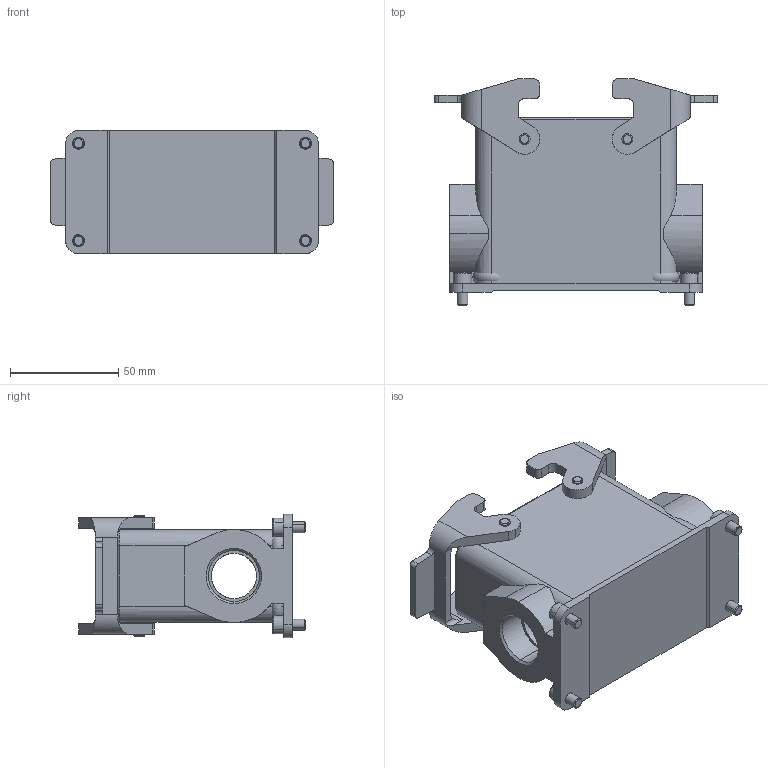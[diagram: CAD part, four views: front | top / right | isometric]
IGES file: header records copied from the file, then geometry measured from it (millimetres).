
Start section: 3D InterOp IGES (Version 25 0 2), Spatial Corp. Copyright (c) 1999-2007.
Global section: file name: E2711_81_16B.igs; native system: Spatial Corp.; preprocessor: 3D InterOp GENERIC/IGES 3.0; author: Noname; organization: Noname; date: 20160920.090148; units: metre
Bounding box: 130.9 x 104.8 x 57 mm (x, y, z)
Volume: 161072.4 mm3; surface area: 73405.2 mm2
Topology: 5 solids, 5 shells, 382 faces, 1015 edges, 660 vertices
Faces by surface type: plane 175, cylinder 159, torus 36, cone 12
